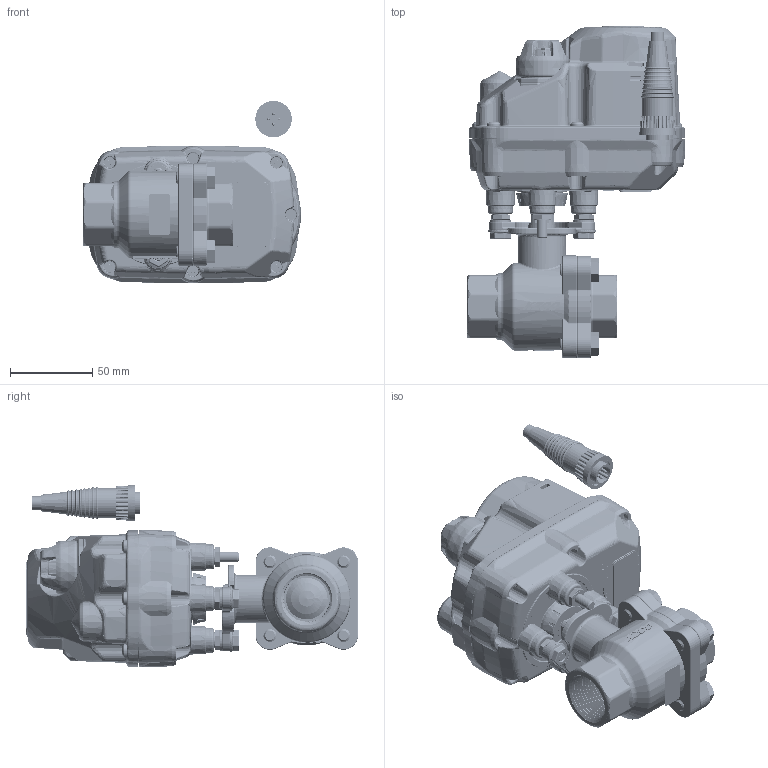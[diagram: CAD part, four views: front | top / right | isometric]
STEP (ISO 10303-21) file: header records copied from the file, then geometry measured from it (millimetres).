
FILE_DESCRIPTION (( 'STEP AP203' ), '1' );
FILE_NAME ('S8F33-1AE9S-C01.STEP', '2025-05-13T19:11:49', ( '' ), ( '' ), 'SwSTEP 2.0', 'SolidWorks 2021', '' );
FILE_SCHEMA (( 'CONFIG_CONTROL_DESIGN' ));
Products named in the file (1): S8F33-1AE9S-C01
Bounding box: 132.74 x 202.12 x 111.06 mm (x, y, z)
Surface area: 247817.3 mm2 (no closed solid volume)
Topology: 0 solids, 80 shells, 11227 faces, 26764 edges, 15580 vertices
Faces by surface type: bspline 3592, cylinder 2203, torus 2167, plane 2094, cone 919, sphere 252
Entity records: 492681 total; most frequent: CARTESIAN_POINT 259888, ORIENTED_EDGE 53026, DIRECTION 44414, EDGE_CURVE 26519, AXIS2_PLACEMENT_3D 19125, VERTEX_POINT 15575, EDGE_LOOP 11516, CIRCLE 11489
